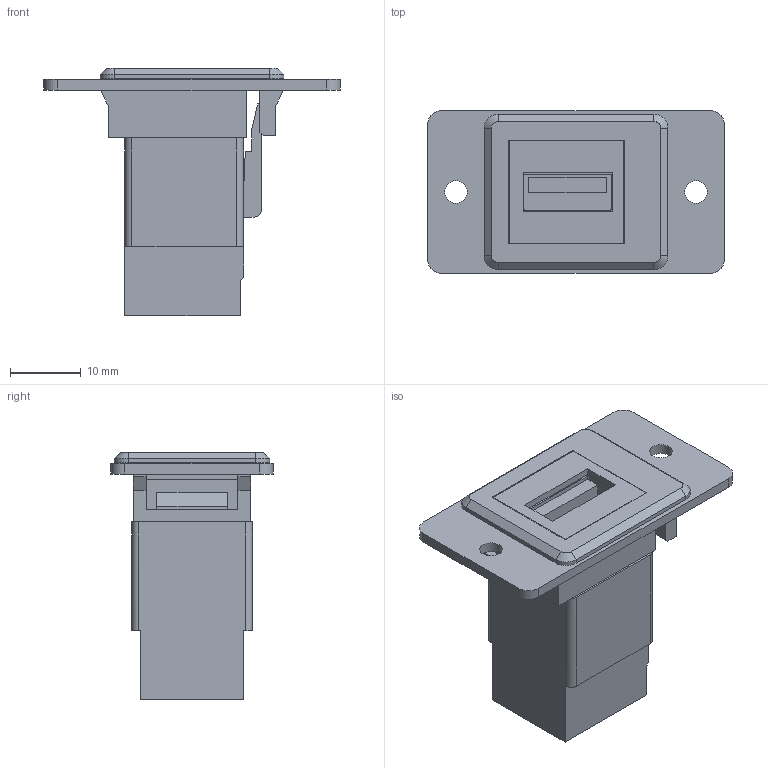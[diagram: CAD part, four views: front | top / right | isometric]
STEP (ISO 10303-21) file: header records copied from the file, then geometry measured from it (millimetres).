
FILE_DESCRIPTION(('FreeCAD Model'),'2;1');
FILE_NAME('Open CASCADE Shape Model','2026-05-19T14:14:24',(''),(''), 'Open CASCADE STEP processor 7.8','FreeCAD','Unknown');
FILE_SCHEMA(('AUTOMOTIVE_DESIGN { 1 0 10303 214 1 1 1 1 }'));
Length unit declared in the file: millimetre
Products named in the file (5): PMBST_USB3ACR_BK; PMBZL_SL; SIM-BZALPL-SL; TB-037_3013BUS12xx_SD; TB-027_210USB05N2BK_SD
Assembly tree (4 placements, depth 3):
  PMBST_USB3ACR_BK
    PMBZL_SL
      SIM-BZALPL-SL
      TB-037_3013BUS12xx_SD
    TB-027_210USB05N2BK_SD
Bounding box: 42 x 23 x 35.09 mm (x, y, z)
Volume: 10386.2 mm3; surface area: 7720.7 mm2
Topology: 3 solids, 3 shells, 170 faces, 469 edges, 310 vertices
Faces by surface type: bspline 150, plane 10, cylinder 10
Full cylindrical faces by diameter (mm): 3.2 x2
Entity records: 7250 total; most frequent: CARTESIAN_POINT 4063, ORIENTED_EDGE 938, EDGE_CURVE 469, B_SPLINE_CURVE_WITH_KNOTS 415, VERTEX_POINT 310, FACE_BOUND 187, EDGE_LOOP 187, ADVANCED_FACE 170
